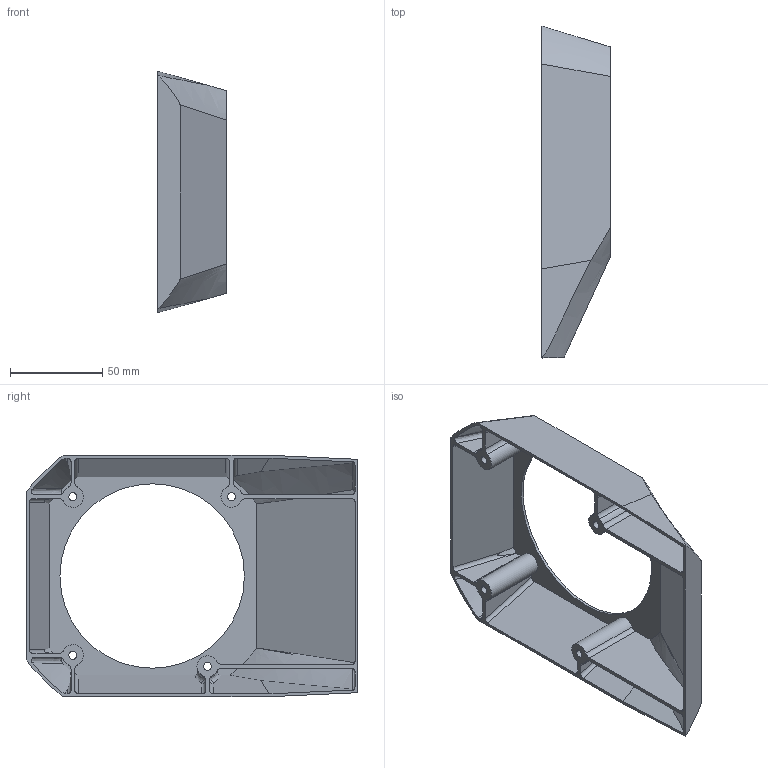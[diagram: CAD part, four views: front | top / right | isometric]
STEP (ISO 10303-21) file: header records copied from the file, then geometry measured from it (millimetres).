
FILE_DESCRIPTION((''),'2;1');
FILE_NAME('KD-B-104L_SHOULDER_1_1_1','2025-07-12T11:16:16',('Administrator'),(''),'CREO PARAMETRIC BY PTC INC, 2022073','CREO PARAMETRIC BY PTC INC, 2022073','');
FILE_SCHEMA(('CONFIG_CONTROL_DESIGN'));
Length unit declared in the file: millimetre
Products named in the file (1): KD-B-104L_SHOULDER_1_1_1
Bounding box: 37 x 179.84 x 130.89 mm (x, y, z)
Volume: 60978.6 mm3; surface area: 72584.7 mm2
Topology: 1 solids, 1 shells, 132 faces, 377 edges, 256 vertices
Faces by surface type: cylinder 56, plane 48, bspline 20, cone 8
Entity records: 8357 total; most frequent: CARTESIAN_POINT 4982, ORIENTED_EDGE 754, DIRECTION 619, EDGE_CURVE 377, VERTEX_POINT 256, AXIS2_PLACEMENT_3D 231, VECTOR 157, LINE 157
